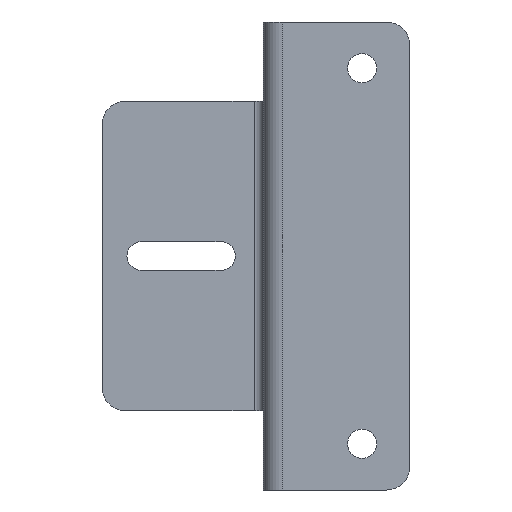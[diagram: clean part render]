
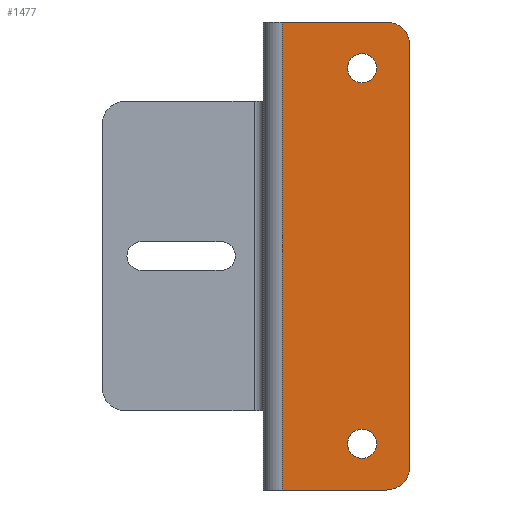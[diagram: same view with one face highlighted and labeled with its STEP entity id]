
A CAD part, front view. The second image highlights one B-rep face of the part: STEP entity #1477.
In plain terms, the highlighted planar face has unit normal (0, -1, 0).
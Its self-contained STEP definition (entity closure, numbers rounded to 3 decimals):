
#2 = DIRECTION ( 'NONE',  ( 0., 0., 1. ) ) ;
#28 = DIRECTION ( 'NONE',  ( 0., 1., 0. ) ) ;
#37 = LINE ( 'NONE', #284, #535 ) ;
#43 = CIRCLE ( 'NONE', #1157, 5. ) ;
#49 = ORIENTED_EDGE ( 'NONE', *, *, #472, .T. ) ;
#63 = FACE_OUTER_BOUND ( 'NONE', #1405, .T. ) ;
#64 = DIRECTION ( 'NONE',  ( 0., 0., 1. ) ) ;
#84 = LINE ( 'NONE', #1339, #421 ) ;
#96 = DIRECTION ( 'NONE',  ( 0., 0., 1. ) ) ;
#129 = CIRCLE ( 'NONE', #394, 3.1 ) ;
#136 = EDGE_LOOP ( 'NONE', ( #1282, #504 ) ) ;
#209 = VERTEX_POINT ( 'NONE', #677 ) ;
#228 = EDGE_CURVE ( 'NONE', #657, #1050, #304, .T. ) ;
#236 = VERTEX_POINT ( 'NONE', #1250 ) ;
#237 = AXIS2_PLACEMENT_3D ( 'NONE', #836, #628, #1299 ) ;
#256 = DIRECTION ( 'NONE',  ( 0., 0., -1. ) ) ;
#267 = EDGE_CURVE ( 'NONE', #1202, #521, #700, .T. ) ;
#274 = DIRECTION ( 'NONE',  ( 0., -1., 0. ) ) ;
#275 = CARTESIAN_POINT ( 'NONE',  ( 21., 0., -9.85 ) ) ;
#284 = CARTESIAN_POINT ( 'NONE',  ( 0., 0., 0. ) ) ;
#296 = FACE_BOUND ( 'NONE', #644, .T. ) ;
#301 = DIRECTION ( 'NONE',  ( 0., 1., 0. ) ) ;
#304 = CIRCLE ( 'NONE', #514, 3.1 ) ;
#310 = FACE_BOUND ( 'NONE', #136, .T. ) ;
#328 = DIRECTION ( 'NONE',  ( 0., 0., -1. ) ) ;
#336 = CARTESIAN_POINT ( 'NONE',  ( 4., 0., -99.7 ) ) ;
#348 = CARTESIAN_POINT ( 'NONE',  ( 31.2, 0., -99.7 ) ) ;
#350 = ORIENTED_EDGE ( 'NONE', *, *, #267, .T. ) ;
#360 = AXIS2_PLACEMENT_3D ( 'NONE', #1040, #924, #2 ) ;
#394 = AXIS2_PLACEMENT_3D ( 'NONE', #755, #1116, #541 ) ;
#398 = VERTEX_POINT ( 'NONE', #1210 ) ;
#406 = PLANE ( 'NONE',  #844 ) ;
#418 = DIRECTION ( 'NONE',  ( 0., 0., 1. ) ) ;
#421 = VECTOR ( 'NONE', #878, 1000. ) ;
#453 = DIRECTION ( 'NONE',  ( 0., 0., 1. ) ) ;
#464 = CIRCLE ( 'NONE', #1327, 3.1 ) ;
#472 = EDGE_CURVE ( 'NONE', #209, #1253, #43, .T. ) ;
#490 = VECTOR ( 'NONE', #453, 1000. ) ;
#504 = ORIENTED_EDGE ( 'NONE', *, *, #228, .T. ) ;
#508 = CARTESIAN_POINT ( 'NONE',  ( 26.2, 0., -99.7 ) ) ;
#510 = CARTESIAN_POINT ( 'NONE',  ( 21., 0., -86.75 ) ) ;
#511 = EDGE_CURVE ( 'NONE', #1253, #398, #37, .T. ) ;
#514 = AXIS2_PLACEMENT_3D ( 'NONE', #275, #1481, #328 ) ;
#521 = VERTEX_POINT ( 'NONE', #510 ) ;
#535 = VECTOR ( 'NONE', #1310, 1000. ) ;
#541 = DIRECTION ( 'NONE',  ( 0., 0., 1. ) ) ;
#593 = EDGE_CURVE ( 'NONE', #236, #398, #1026, .T. ) ;
#596 = LINE ( 'NONE', #348, #490 ) ;
#609 = CARTESIAN_POINT ( 'NONE',  ( 21., 0., -92.95 ) ) ;
#614 = CARTESIAN_POINT ( 'NONE',  ( 21., 0., -9.85 ) ) ;
#616 = EDGE_CURVE ( 'NONE', #973, #236, #84, .T. ) ;
#628 = DIRECTION ( 'NONE',  ( 0., -1., 0. ) ) ;
#644 = EDGE_LOOP ( 'NONE', ( #1307, #350 ) ) ;
#657 = VERTEX_POINT ( 'NONE', #829 ) ;
#677 = CARTESIAN_POINT ( 'NONE',  ( 31.2, 0., -5. ) ) ;
#700 = CIRCLE ( 'NONE', #360, 3.1 ) ;
#703 = ORIENTED_EDGE ( 'NONE', *, *, #616, .F. ) ;
#704 = CARTESIAN_POINT ( 'NONE',  ( 21., 0., -6.75 ) ) ;
#711 = ORIENTED_EDGE ( 'NONE', *, *, #1027, .T. ) ;
#755 = CARTESIAN_POINT ( 'NONE',  ( 21., 0., -89.85 ) ) ;
#829 = CARTESIAN_POINT ( 'NONE',  ( 21., 0., -12.95 ) ) ;
#830 = CARTESIAN_POINT ( 'NONE',  ( 31.2, 0., -94.7 ) ) ;
#836 = CARTESIAN_POINT ( 'NONE',  ( 26.2, 0., -94.7 ) ) ;
#844 = AXIS2_PLACEMENT_3D ( 'NONE', #1347, #301, #418 ) ;
#848 = EDGE_CURVE ( 'NONE', #521, #1202, #129, .T. ) ;
#878 = DIRECTION ( 'NONE',  ( -1., 0., 0. ) ) ;
#924 = DIRECTION ( 'NONE',  ( 0., 1., 0. ) ) ;
#936 = EDGE_CURVE ( 'NONE', #973, #1421, #1064, .T. ) ;
#973 = VERTEX_POINT ( 'NONE', #508 ) ;
#1016 = ORIENTED_EDGE ( 'NONE', *, *, #593, .F. ) ;
#1026 = LINE ( 'NONE', #336, #1341 ) ;
#1027 = EDGE_CURVE ( 'NONE', #1421, #209, #596, .T. ) ;
#1040 = CARTESIAN_POINT ( 'NONE',  ( 21., 0., -89.85 ) ) ;
#1050 = VERTEX_POINT ( 'NONE', #704 ) ;
#1064 = CIRCLE ( 'NONE', #237, 5. ) ;
#1082 = CARTESIAN_POINT ( 'NONE',  ( 26.2, 0., -5. ) ) ;
#1116 = DIRECTION ( 'NONE',  ( 0., 1., 0. ) ) ;
#1157 = AXIS2_PLACEMENT_3D ( 'NONE', #1082, #274, #64 ) ;
#1169 = CARTESIAN_POINT ( 'NONE',  ( 26.2, 0., 0. ) ) ;
#1202 = VERTEX_POINT ( 'NONE', #609 ) ;
#1210 = CARTESIAN_POINT ( 'NONE',  ( 4., 0., 0. ) ) ;
#1250 = CARTESIAN_POINT ( 'NONE',  ( 4., 0., -99.7 ) ) ;
#1253 = VERTEX_POINT ( 'NONE', #1169 ) ;
#1282 = ORIENTED_EDGE ( 'NONE', *, *, #1438, .T. ) ;
#1299 = DIRECTION ( 'NONE',  ( 0., 0., 1. ) ) ;
#1307 = ORIENTED_EDGE ( 'NONE', *, *, #848, .T. ) ;
#1310 = DIRECTION ( 'NONE',  ( -1., 0., 0. ) ) ;
#1327 = AXIS2_PLACEMENT_3D ( 'NONE', #614, #28, #256 ) ;
#1339 = CARTESIAN_POINT ( 'NONE',  ( 0., 0., -99.7 ) ) ;
#1341 = VECTOR ( 'NONE', #96, 1000. ) ;
#1347 = CARTESIAN_POINT ( 'NONE',  ( 0., 0., -99.7 ) ) ;
#1354 = ORIENTED_EDGE ( 'NONE', *, *, #936, .T. ) ;
#1405 = EDGE_LOOP ( 'NONE', ( #711, #49, #1455, #1016, #703, #1354 ) ) ;
#1421 = VERTEX_POINT ( 'NONE', #830 ) ;
#1438 = EDGE_CURVE ( 'NONE', #1050, #657, #464, .T. ) ;
#1455 = ORIENTED_EDGE ( 'NONE', *, *, #511, .T. ) ;
#1477 = ADVANCED_FACE ( 'NONE', ( #296, #310, #63 ), #406, .F. ) ;
#1481 = DIRECTION ( 'NONE',  ( 0., 1., 0. ) ) ;
